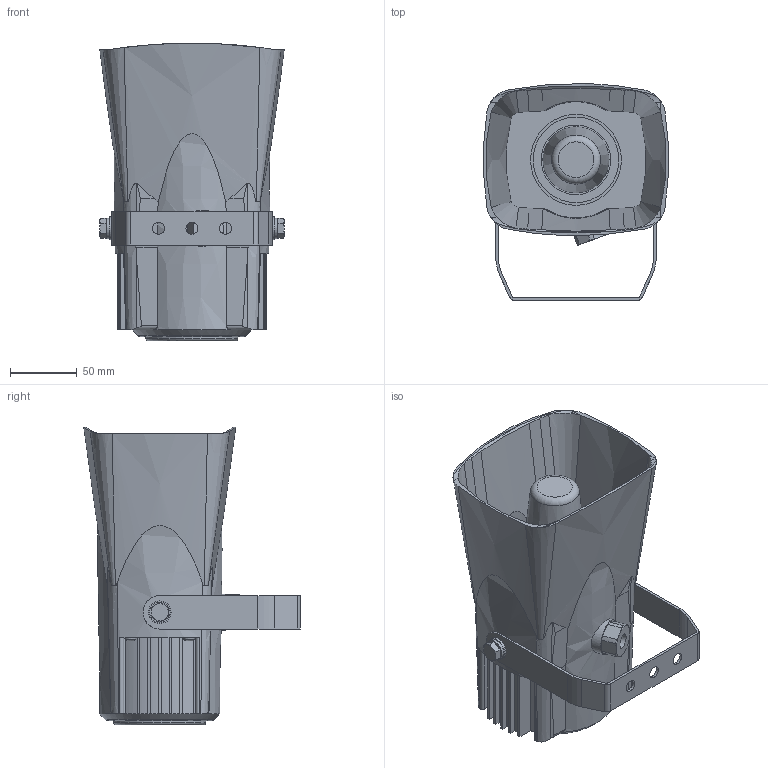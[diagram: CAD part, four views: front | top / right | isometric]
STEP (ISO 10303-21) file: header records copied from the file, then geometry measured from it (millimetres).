
FILE_DESCRIPTION(/* description */ (''),/* implementation_level */ '2;1');
FILE_NAME(/* name */ 'C:\Users\john\Desktop\New folder (3)\v_siren_alarm_xvs_14bmw_v.stp',/* time_stamp */ '2013-01-01T11:43:15-08:00',/* author */ ('john'),/* organization */ ('TraceParts S.A.'),/* preprocessor_version */ 'ST-DEVELOPER v15.2',/* originating_system */ 'Autodesk Inventor 2014',/* authorisation */ '');
FILE_SCHEMA (('AUTOMOTIVE_DESIGN { 1 0 10303 214 3 1 1 }'));
Length unit declared in the file: millimetre
Products named in the file (2): v_siren_alarm_xvs_14bmw_v_01; v_siren_alarm_xvs_14bmw_v
Bounding box: 137.96 x 161.8 x 222.71 mm (x, y, z)
Volume: 1188516.6 mm3; surface area: 181118.3 mm2
Topology: 1 solids, 1 shells, 362 faces, 980 edges, 645 vertices
Faces by surface type: plane 196, cylinder 90, cone 67, bspline 5, torus 4
Full cylindrical faces by diameter (mm): 9 x3, 10.999 x1, 12.89 x2, 15.388 x2, 17 x2, 27 x1, 49.5 x1, 52 x1, 60 x1, 61.193 x1, 64 x1, 68 x1, 68.8 x1
Entity records: 12398 total; most frequent: CARTESIAN_POINT 3678, ORIENTED_EDGE 1868, DIRECTION 1735, EDGE_CURVE 934, AXIS2_PLACEMENT_3D 662, VERTEX_POINT 636, EDGE_LOOP 432, LINE 411
